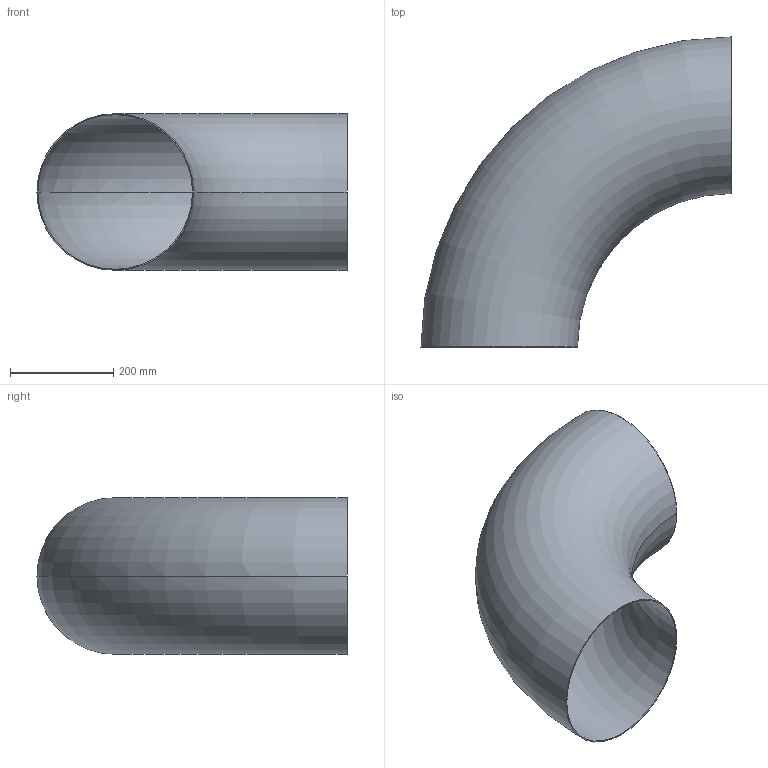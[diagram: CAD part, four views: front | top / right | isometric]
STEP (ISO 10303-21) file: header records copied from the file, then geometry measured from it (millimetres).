
FILE_DESCRIPTION (( 'STEP AP203' ), '1' );
FILE_NAME ('OT212-300-304x2_OSTP.step', '2020-12-16T03:03:55', ( '' ), ( '' ), 'SwSTEP 2.0', 'SolidWorks 2014', '' );
FILE_SCHEMA (( 'CONFIG_CONTROL_DESIGN' ));
Length unit declared in the file: millimetre
Products named in the file (1): OT212-300-304x2_OSTP
Bounding box: 602 x 602 x 304 mm (x, y, z)
Volume: 1341279.2 mm3; surface area: 1345074.3 mm2
Topology: 1 solids, 1 shells, 6 faces, 12 edges, 8 vertices
Faces by surface type: torus 4, plane 2
Entity records: 249 total; most frequent: DIRECTION 38, CARTESIAN_POINT 27, ORIENTED_EDGE 24, AXIS2_PLACEMENT_3D 19, EDGE_CURVE 12, CIRCLE 12, PERSON_AND_ORGANIZATION 8, EDGE_LOOP 8
